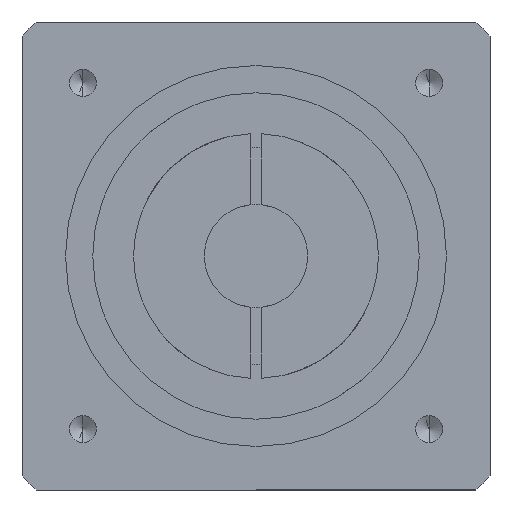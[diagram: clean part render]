
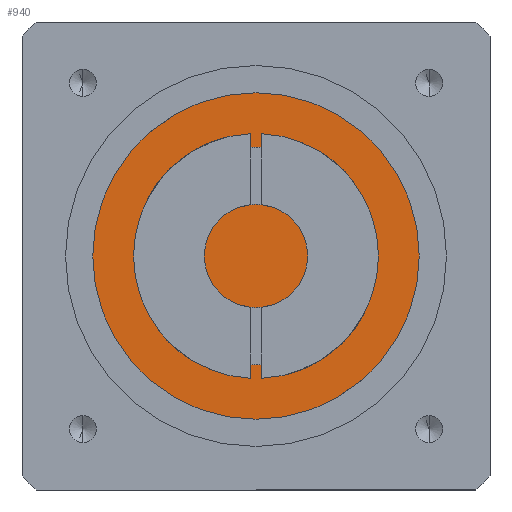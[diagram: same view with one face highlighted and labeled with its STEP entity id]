
A CAD part, front view. The second image highlights one B-rep face of the part: STEP entity #940.
In plain terms, the highlighted planar face has unit normal (0, -1, 0).
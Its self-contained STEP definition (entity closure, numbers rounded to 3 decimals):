
#307 = EDGE_CURVE ( 'NONE', #1215, #1248, #1891, .T. ) ;
#362 = EDGE_CURVE ( 'NONE', #1248, #1215, #1971, .T. ) ;
#847 = EDGE_LOOP ( 'NONE', ( #1432, #1433 ) ) ;
#940 = ADVANCED_FACE ( 'NONE', ( #3554 ), #3722, .T. ) ;
#1159 = AXIS2_PLACEMENT_3D ( 'NONE', #2432, #2433, #2434 ) ;
#1215 = VERTEX_POINT ( 'NONE', #4758 ) ;
#1248 = VERTEX_POINT ( 'NONE', #4791 ) ;
#1432 = ORIENTED_EDGE ( 'NONE', *, *, #362, .T. ) ;
#1433 = ORIENTED_EDGE ( 'NONE', *, *, #307, .T. ) ;
#1891 = CIRCLE ( 'NONE', #1159, 30. ) ;
#1971 = CIRCLE ( 'NONE', #2667, 30. ) ;
#2432 = CARTESIAN_POINT ( 'NONE',  ( 0., -91., 0. ) ) ;
#2433 = DIRECTION ( 'NONE',  ( 0., -1., 0. ) ) ;
#2434 = DIRECTION ( 'NONE',  ( 0., 0., -1. ) ) ;
#2570 = CARTESIAN_POINT ( 'NONE',  ( 0., -91., 0. ) ) ;
#2571 = DIRECTION ( 'NONE',  ( 0., -1., 0. ) ) ;
#2572 = DIRECTION ( 'NONE',  ( 0., 0., -1. ) ) ;
#2667 = AXIS2_PLACEMENT_3D ( 'NONE', #2570, #2571, #2572 ) ;
#2776 = AXIS2_PLACEMENT_3D ( 'NONE', #3721, #3725, #3726 ) ;
#3554 = FACE_OUTER_BOUND ( 'NONE', #847, .T. ) ;
#3721 = CARTESIAN_POINT ( 'NONE',  ( 0., -91., 0. ) ) ;
#3722 = PLANE ( 'NONE',  #2776 ) ;
#3725 = DIRECTION ( 'NONE',  ( 0., -1., 0. ) ) ;
#3726 = DIRECTION ( 'NONE',  ( 0., 0., -1. ) ) ;
#4758 = CARTESIAN_POINT ( 'NONE',  ( 0., -91., 30. ) ) ;
#4791 = CARTESIAN_POINT ( 'NONE',  ( 0., -91., -30. ) ) ;
